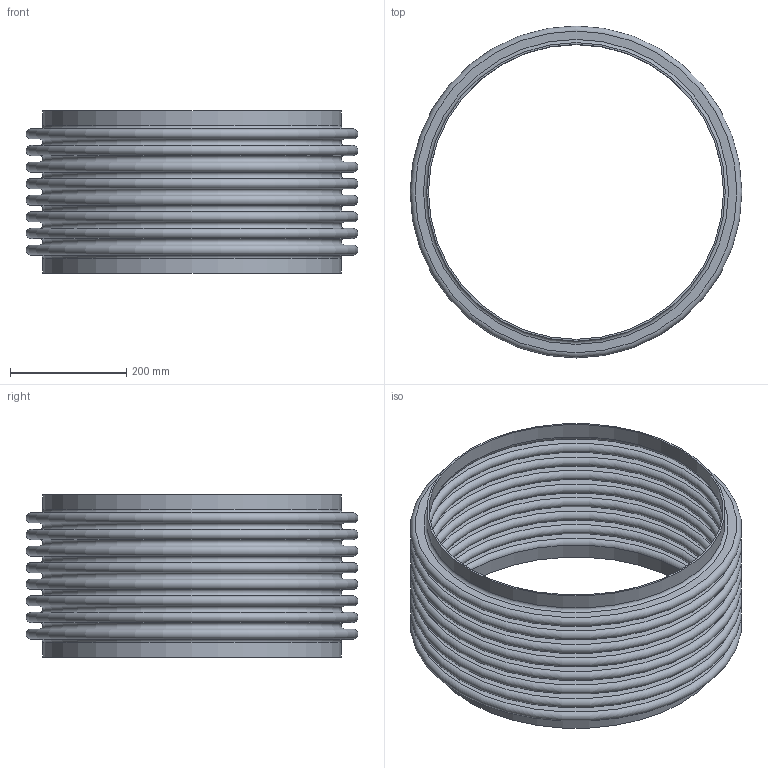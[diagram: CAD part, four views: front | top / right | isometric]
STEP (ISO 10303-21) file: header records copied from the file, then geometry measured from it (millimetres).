
FILE_DESCRIPTION(/* description */ ('STOCK BELLOWS: U.S-20-8-300S, 20.000 I.D., 22.500 O.D., 2 PLY, 16 GA (0.060 THICK), 8 CONS., 1.125 PITCH, 1.000 TANGENT. '),/* implementation_level */ '2;1');
FILE_NAME(/* name */ 'STOCK BELLOW - US-20-8-300S.stp',/* time_stamp */ '2026-07-21T13:31:11-05:00',/* author */ ('KennethB'),/* organization */ (''),/* preprocessor_version */ 'ST-DEVELOPER v20.1',/* originating_system */ 'Autodesk Inventor 2026',/* authorisation */ '');
FILE_SCHEMA (('AUTOMOTIVE_DESIGN { 1 0 10303 214 3 1 1 }'));
Length unit declared in the file: inch
Products named in the file (1): STOCK BELLOW - US-20-8-300S
Bounding box: 571.5 x 571.5 x 279.4 mm (x, y, z)
Volume: 3296491.8 mm3; surface area: 2192413.8 mm2
Topology: 3 solids, 3 shells, 76 faces, 114 edges, 77 vertices
Faces by surface type: plane 38, torus 34, cylinder 4
Full cylindrical faces by diameter (mm): 508 x2, 514.096 x2
Entity records: 1814 total; most frequent: DIRECTION 378, CARTESIAN_POINT 268, ORIENTED_EDGE 228, AXIS2_PLACEMENT_3D 187, EDGE_LOOP 114, EDGE_CURVE 114, CIRCLE 110, FACE_OUTER_BOUND 76
